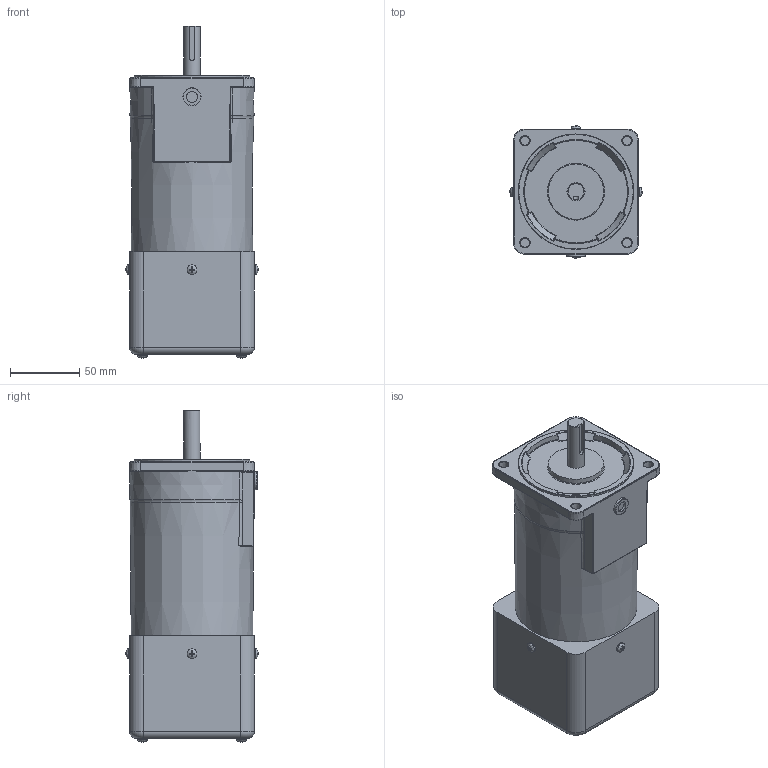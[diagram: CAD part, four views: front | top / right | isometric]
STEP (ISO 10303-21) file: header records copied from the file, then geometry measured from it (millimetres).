
FILE_DESCRIPTION (( 'STEP AP214' ), '1' );
FILE_NAME ('9TDG¤±-60F2WH.STEP', '2025-01-13T08:14:20', ( '' ), ( '' ), 'SwSTEP 2.0', 'SolidWorks 2024', '' );
FILE_SCHEMA (( 'AUTOMOTIVE_DESIGN' ));
Length unit declared in the file: millimetre
Products named in the file (1): 9TDGㅁ-60F2WH
Bounding box: 95.13 x 95.13 x 239.07 mm (x, y, z)
Volume: 1381647.3 mm3; surface area: 85365.3 mm2
Topology: 1 solids, 1 shells, 439 faces, 1137 edges, 730 vertices
Faces by surface type: plane 199, cylinder 134, bspline 36, torus 35, cone 33, sphere 2
Full cylindrical faces by diameter (mm): 6.5 x4, 7 x8, 8 x1, 10 x1, 12 x1, 13 x2, 83.1 x1
Entity records: 14069 total; most frequent: CARTESIAN_POINT 3972, ORIENTED_EDGE 2124, DIRECTION 1980, EDGE_CURVE 1062, AXIS2_PLACEMENT_3D 748, VERTEX_POINT 710, EDGE_LOOP 532, VECTOR 484
